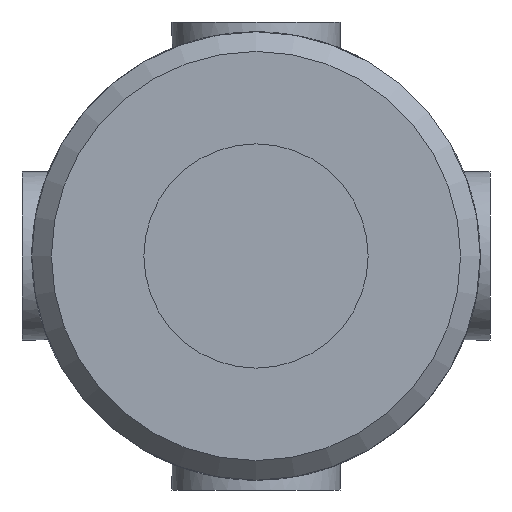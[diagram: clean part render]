
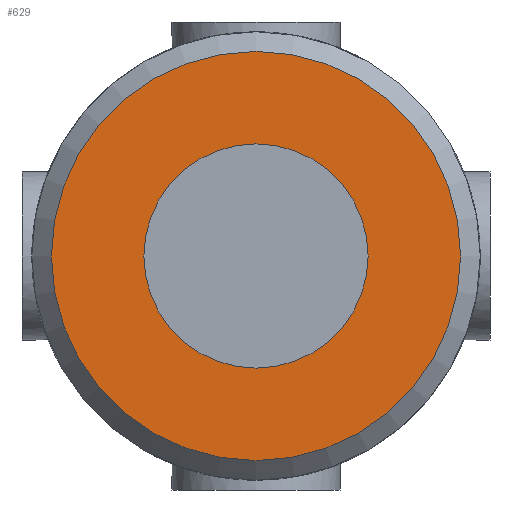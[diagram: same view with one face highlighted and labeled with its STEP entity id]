
A CAD part, front view. The second image highlights one B-rep face of the part: STEP entity #629.
In plain terms, the highlighted planar face has unit normal (0, -1, 0).
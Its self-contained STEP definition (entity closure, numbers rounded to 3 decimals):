
#121=PLANE('',#688);
#147=FACE_BOUND('',#231,.T.);
#174=FACE_OUTER_BOUND('',#230,.T.);
#230=EDGE_LOOP('',(#498));
#231=EDGE_LOOP('',(#499));
#274=CIRCLE('',#682,4.);
#277=CIRCLE('',#686,7.3);
#313=VERTEX_POINT('',#974);
#316=VERTEX_POINT('',#981);
#379=EDGE_CURVE('',#313,#313,#274,.T.);
#382=EDGE_CURVE('',#316,#316,#277,.T.);
#498=ORIENTED_EDGE('',*,*,#382,.F.);
#499=ORIENTED_EDGE('',*,*,#379,.T.);
#629=ADVANCED_FACE('',(#174,#147),#121,.F.);
#682=AXIS2_PLACEMENT_3D('',#975,#799,#800);
#686=AXIS2_PLACEMENT_3D('',#982,#807,#808);
#688=AXIS2_PLACEMENT_3D('',#1150,#815,#816);
#799=DIRECTION('center_axis',(0.,1.,0.));
#800=DIRECTION('ref_axis',(-1.,0.,0.));
#807=DIRECTION('center_axis',(0.,1.,0.));
#808=DIRECTION('ref_axis',(1.,0.,0.));
#815=DIRECTION('center_axis',(0.,1.,0.));
#816=DIRECTION('ref_axis',(0.,0.,1.));
#974=CARTESIAN_POINT('',(4.,-24.,0.));
#975=CARTESIAN_POINT('Origin',(0.,-24.,0.));
#981=CARTESIAN_POINT('',(-7.3,-24.,0.));
#982=CARTESIAN_POINT('Origin',(0.,-24.,0.));
#1150=CARTESIAN_POINT('Origin',(0.,-24.,0.));
